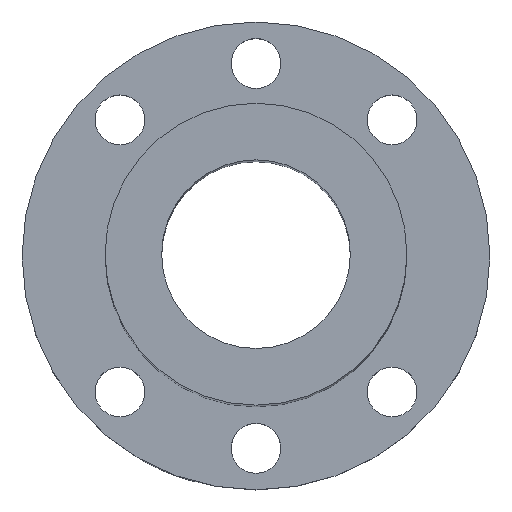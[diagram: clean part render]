
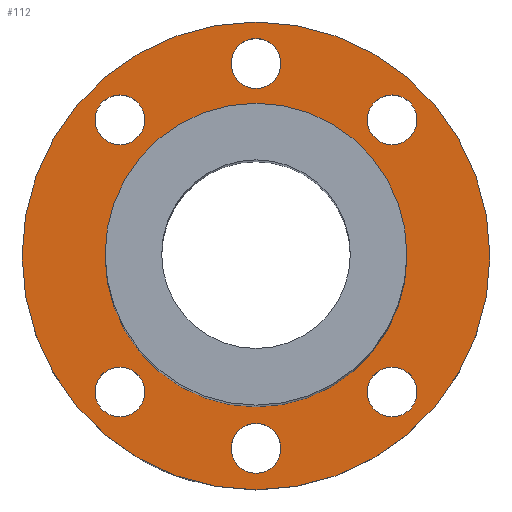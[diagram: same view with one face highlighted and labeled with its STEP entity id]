
A CAD part, top view. The second image highlights one B-rep face of the part: STEP entity #112.
In plain terms, the highlighted planar face has unit normal (0, 0, 1).
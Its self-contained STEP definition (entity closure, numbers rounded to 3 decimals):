
#99=PLANE('',#355);
#112=ADVANCED_FACE('',(#159,#160,#161,#162,#163,#164,#165,#166),#99,.T.);
#159=FACE_BOUND('',#203,.T.);
#160=FACE_BOUND('',#204,.T.);
#161=FACE_BOUND('',#205,.T.);
#162=FACE_BOUND('',#206,.T.);
#163=FACE_BOUND('',#207,.T.);
#164=FACE_BOUND('',#208,.T.);
#165=FACE_BOUND('',#209,.T.);
#166=FACE_BOUND('',#210,.T.);
#203=EDGE_LOOP('',(#247));
#204=EDGE_LOOP('',(#248));
#205=EDGE_LOOP('',(#249));
#206=EDGE_LOOP('',(#250));
#207=EDGE_LOOP('',(#251));
#208=EDGE_LOOP('',(#252));
#209=EDGE_LOOP('',(#253));
#210=EDGE_LOOP('',(#254));
#247=ORIENTED_EDGE('',*,*,#284,.T.);
#248=ORIENTED_EDGE('',*,*,#301,.F.);
#249=ORIENTED_EDGE('',*,*,#300,.T.);
#250=ORIENTED_EDGE('',*,*,#286,.T.);
#251=ORIENTED_EDGE('',*,*,#299,.F.);
#252=ORIENTED_EDGE('',*,*,#298,.T.);
#253=ORIENTED_EDGE('',*,*,#297,.F.);
#254=ORIENTED_EDGE('',*,*,#302,.T.);
#262=VERTEX_POINT('',#437);
#264=VERTEX_POINT('',#499);
#275=VERTEX_POINT('',#582);
#276=VERTEX_POINT('',#585);
#277=VERTEX_POINT('',#588);
#278=VERTEX_POINT('',#591);
#279=VERTEX_POINT('',#594);
#280=VERTEX_POINT('',#597);
#284=EDGE_CURVE('',#262,#262,#306,.T.);
#286=EDGE_CURVE('',#264,#264,#307,.T.);
#297=EDGE_CURVE('',#275,#275,#317,.T.);
#298=EDGE_CURVE('',#276,#276,#318,.T.);
#299=EDGE_CURVE('',#277,#277,#319,.T.);
#300=EDGE_CURVE('',#278,#278,#320,.T.);
#301=EDGE_CURVE('',#279,#279,#321,.T.);
#302=EDGE_CURVE('',#280,#280,#322,.T.);
#306=CIRCLE('',#327,31.);
#307=CIRCLE('',#329,20.);
#317=CIRCLE('',#343,3.3);
#318=CIRCLE('',#345,3.3);
#319=CIRCLE('',#347,3.3);
#320=CIRCLE('',#349,3.3);
#321=CIRCLE('',#351,3.3);
#322=CIRCLE('',#353,3.3);
#327=AXIS2_PLACEMENT_3D('',#436,#365,#366);
#329=AXIS2_PLACEMENT_3D('',#498,#369,#370);
#343=AXIS2_PLACEMENT_3D('',#581,#397,#398);
#345=AXIS2_PLACEMENT_3D('',#584,#401,#402);
#347=AXIS2_PLACEMENT_3D('',#587,#405,#406);
#349=AXIS2_PLACEMENT_3D('',#590,#409,#410);
#351=AXIS2_PLACEMENT_3D('',#593,#413,#414);
#353=AXIS2_PLACEMENT_3D('',#596,#417,#418);
#355=AXIS2_PLACEMENT_3D('',#599,#421,#422);
#365=DIRECTION('',(0.,0.,1.));
#366=DIRECTION('',(1.,0.,0.));
#369=DIRECTION('',(0.,0.,-1.));
#370=DIRECTION('',(1.,0.,0.));
#397=DIRECTION('',(0.,0.,1.));
#398=DIRECTION('',(1.,0.,0.));
#401=DIRECTION('',(0.,0.,-1.));
#402=DIRECTION('',(1.,0.,0.));
#405=DIRECTION('',(0.,0.,1.));
#406=DIRECTION('',(1.,0.,0.));
#409=DIRECTION('',(0.,0.,-1.));
#410=DIRECTION('',(1.,0.,0.));
#413=DIRECTION('',(0.,0.,1.));
#414=DIRECTION('',(-1.,0.,0.));
#417=DIRECTION('',(0.,0.,-1.));
#418=DIRECTION('',(-1.,0.,0.));
#421=DIRECTION('',(0.,0.,1.));
#422=DIRECTION('',(1.,0.,0.));
#436=CARTESIAN_POINT('',(0.,0.,10.));
#437=CARTESIAN_POINT('',(31.,0.,10.));
#498=CARTESIAN_POINT('',(0.,0.,10.));
#499=CARTESIAN_POINT('',(20.,0.,10.));
#581=CARTESIAN_POINT('',(0.,25.5,10.));
#582=CARTESIAN_POINT('',(3.3,25.5,10.));
#584=CARTESIAN_POINT('',(-18.031,-18.031,10.));
#585=CARTESIAN_POINT('',(-14.731,-18.031,10.));
#587=CARTESIAN_POINT('',(-18.031,18.031,10.));
#588=CARTESIAN_POINT('',(-14.731,18.031,10.));
#590=CARTESIAN_POINT('',(0.,-25.5,10.));
#591=CARTESIAN_POINT('',(3.3,-25.5,10.));
#593=CARTESIAN_POINT('',(18.031,-18.031,10.));
#594=CARTESIAN_POINT('',(14.731,-18.031,10.));
#596=CARTESIAN_POINT('',(18.031,18.031,10.));
#597=CARTESIAN_POINT('',(14.731,18.031,10.));
#599=CARTESIAN_POINT('',(9.016,-9.016,10.));
